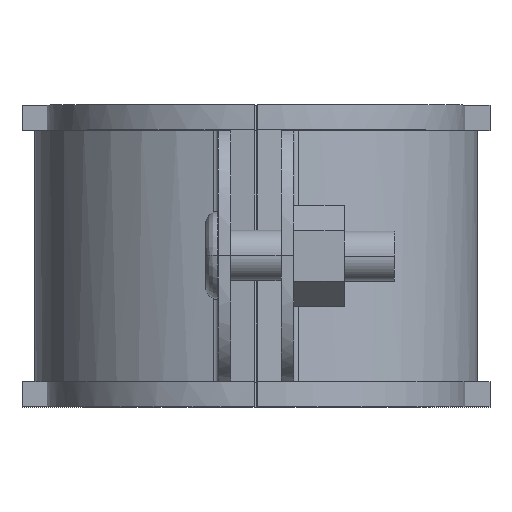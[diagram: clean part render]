
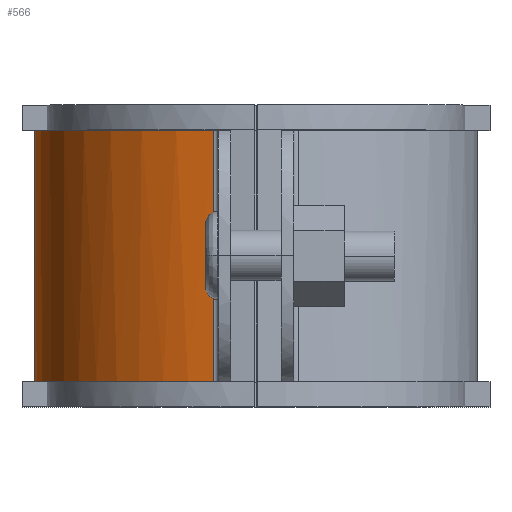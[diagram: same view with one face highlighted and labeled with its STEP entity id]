
A CAD part, top view. The second image highlights one B-rep face of the part: STEP entity #566.
In plain terms, the highlighted free-form (B-spline) face has degree [3, 1] with [4, 2] control points.
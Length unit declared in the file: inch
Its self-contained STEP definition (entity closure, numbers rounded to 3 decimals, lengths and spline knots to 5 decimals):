
#354=EDGE_CURVE('',#982,#983,#984,.T.);
#566=ADVANCED_FACE('',(#1323),#1324,.T.);
#652=EDGE_CURVE('',#982,#1442,#1443,.T.);
#796=EDGE_CURVE('',#983,#1208,#1628,.T.);
#872=EDGE_CURVE('',#1208,#1442,#1723,.T.);
#982=VERTEX_POINT('',#1852);
#983=VERTEX_POINT('',#1853);
#984=B_SPLINE_CURVE_WITH_KNOTS('',3,(#1854,#1855,#1856,#1857),.UNSPECIFIED.,.F.,.F.,(4,4),(-1.0,-0.0),.UNSPECIFIED.);
#1208=VERTEX_POINT('',#2317);
#1323=FACE_OUTER_BOUND('',#2620,.T.);
#1324=B_SPLINE_SURFACE_WITH_KNOTS('',3,1,((#2621,#2622),(#2623,#2624),(#2625,#2626),(#2627,#2628)),.UNSPECIFIED.,.F.,.F.,.F.,(4,4),(2,2),(-1.0,-0.0),(0.0,1.25),.UNSPECIFIED.);
#1442=VERTEX_POINT('',#2908);
#1443=LINE('',#2909,#2910);
#1628=LINE('',#3267,#3268);
#1723=B_SPLINE_CURVE_WITH_KNOTS('',3,(#3433,#3434,#3435,#3436),.UNSPECIFIED.,.F.,.F.,(4,4),(0.0,1.0),.UNSPECIFIED.);
#1852=CARTESIAN_POINT('',(0.89061,1.24627,2.83496));
#1853=CARTESIAN_POINT('',(0.00007,1.24627,1.77071));
#1854=CARTESIAN_POINT('',(0.89061,1.24627,2.83496));
#1855=CARTESIAN_POINT('',(0.39166,1.24627,2.73749));
#1856=CARTESIAN_POINT('',(0.00007,1.24627,2.31293));
#1857=CARTESIAN_POINT('',(0.00007,1.24627,1.77071));
#2317=CARTESIAN_POINT('',(0.00007,0.0,1.77071));
#2620=EDGE_LOOP('',(#4104,#4105,#4106,#4107));
#2621=CARTESIAN_POINT('',(0.89061,1.25,2.83496));
#2622=CARTESIAN_POINT('',(0.89061,0.0,2.83496));
#2623=CARTESIAN_POINT('',(0.39166,1.25,2.73749));
#2624=CARTESIAN_POINT('',(0.39166,0.0,2.73749));
#2625=CARTESIAN_POINT('',(0.00007,1.25,2.31293));
#2626=CARTESIAN_POINT('',(0.00007,0.0,2.31293));
#2627=CARTESIAN_POINT('',(0.00007,1.25,1.77071));
#2628=CARTESIAN_POINT('',(0.00007,0.0,1.77071));
#2908=CARTESIAN_POINT('',(0.89061,0.0,2.83496));
#2909=CARTESIAN_POINT('',(0.89061,1.25,2.83496));
#2910=VECTOR('',#4281,1.0);
#3267=CARTESIAN_POINT('',(0.00007,1.25,1.77071));
#3268=VECTOR('',#4573,1.0);
#3433=CARTESIAN_POINT('',(0.00007,0.0,1.77071));
#3434=CARTESIAN_POINT('',(0.00007,0.0,2.31293));
#3435=CARTESIAN_POINT('',(0.39166,0.0,2.73749));
#3436=CARTESIAN_POINT('',(0.89061,0.0,2.83496));
#4104=ORIENTED_EDGE('',*,*,#354,.T.);
#4105=ORIENTED_EDGE('',*,*,#796,.T.);
#4106=ORIENTED_EDGE('',*,*,#872,.T.);
#4107=ORIENTED_EDGE('',*,*,#652,.F.);
#4281=DIRECTION('',(0.0,-1.0,0.0));
#4573=DIRECTION('',(0.0,-1.0,0.0));
